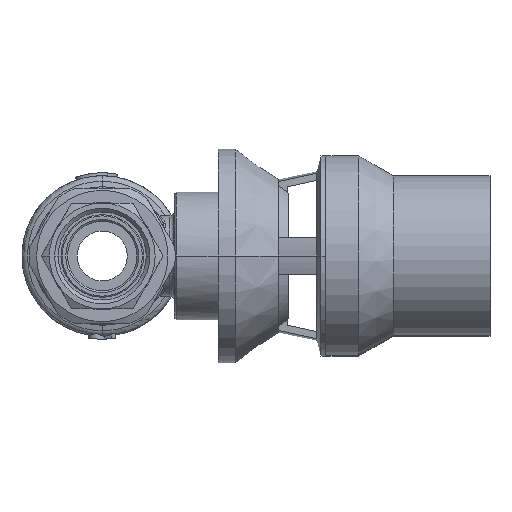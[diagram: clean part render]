
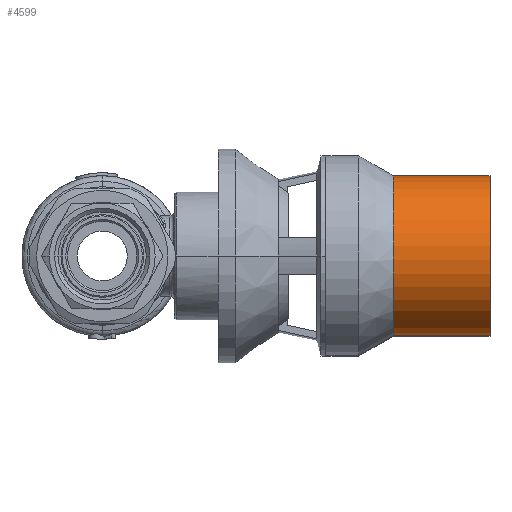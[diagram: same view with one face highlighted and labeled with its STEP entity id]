
A CAD part, left-side view. The second image highlights one B-rep face of the part: STEP entity #4599.
In plain terms, the highlighted cylindrical face has radius 22 mm (diameter 44 mm), a partial arc.
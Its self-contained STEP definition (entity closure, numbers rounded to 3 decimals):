
#660 = CARTESIAN_POINT ( 'NONE',  ( 0., 53.218, -22. ) ) ;
#955 = AXIS2_PLACEMENT_3D ( 'NONE', #18864, #7472, #20795 ) ;
#1222 = CIRCLE ( 'NONE', #955, 22. ) ;
#1336 = VECTOR ( 'NONE', #14076, 1000. ) ;
#4207 = ORIENTED_EDGE ( 'NONE', *, *, #4993, .T. ) ;
#4599 = ADVANCED_FACE ( 'NONE', ( #12392 ), #11803, .T. ) ;
#4993 = EDGE_CURVE ( 'NONE', #10726, #6888, #12669, .T. ) ;
#6425 = EDGE_CURVE ( 'NONE', #12792, #6888, #1222, .T. ) ;
#6888 = VERTEX_POINT ( 'NONE', #24426 ) ;
#7472 = DIRECTION ( 'NONE',  ( 0., 1., 0. ) ) ;
#7906 = CARTESIAN_POINT ( 'NONE',  ( 0., 26.474, -22. ) ) ;
#8065 = CARTESIAN_POINT ( 'NONE',  ( 0., 0., 0. ) ) ;
#8327 = CARTESIAN_POINT ( 'NONE',  ( 0., 0., -22. ) ) ;
#8694 = ORIENTED_EDGE ( 'NONE', *, *, #6425, .F. ) ;
#9949 = DIRECTION ( 'NONE',  ( 0., 0., 1. ) ) ;
#10726 = VERTEX_POINT ( 'NONE', #12369 ) ;
#11551 = LINE ( 'NONE', #660, #1336 ) ;
#11803 = CYLINDRICAL_SURFACE ( 'NONE', #17210, 22. ) ;
#12369 = CARTESIAN_POINT ( 'NONE',  ( 0., 0., 22. ) ) ;
#12392 = FACE_OUTER_BOUND ( 'NONE', #17198, .T. ) ;
#12669 = LINE ( 'NONE', #23609, #21060 ) ;
#12792 = VERTEX_POINT ( 'NONE', #7906 ) ;
#14076 = DIRECTION ( 'NONE',  ( 0., 1., 0. ) ) ;
#17198 = EDGE_LOOP ( 'NONE', ( #22124, #24797, #4207, #8694 ) ) ;
#17210 = AXIS2_PLACEMENT_3D ( 'NONE', #24464, #24745, #23223 ) ;
#17753 = AXIS2_PLACEMENT_3D ( 'NONE', #8065, #21390, #9949 ) ;
#18864 = CARTESIAN_POINT ( 'NONE',  ( 0., 26.474, 0. ) ) ;
#20795 = DIRECTION ( 'NONE',  ( 0., 0., 1. ) ) ;
#21060 = VECTOR ( 'NONE', #22909, 1000. ) ;
#21390 = DIRECTION ( 'NONE',  ( 0., 1., 0. ) ) ;
#21533 = CIRCLE ( 'NONE', #17753, 22. ) ;
#22077 = EDGE_CURVE ( 'NONE', #23022, #12792, #11551, .T. ) ;
#22124 = ORIENTED_EDGE ( 'NONE', *, *, #22077, .F. ) ;
#22909 = DIRECTION ( 'NONE',  ( 0., 1., 0. ) ) ;
#23022 = VERTEX_POINT ( 'NONE', #8327 ) ;
#23223 = DIRECTION ( 'NONE',  ( 0., 0., 1. ) ) ;
#23512 = EDGE_CURVE ( 'NONE', #23022, #10726, #21533, .T. ) ;
#23609 = CARTESIAN_POINT ( 'NONE',  ( 0., 53.218, 22. ) ) ;
#24426 = CARTESIAN_POINT ( 'NONE',  ( 0., 26.474, 22. ) ) ;
#24464 = CARTESIAN_POINT ( 'NONE',  ( 0., 53.218, 0. ) ) ;
#24745 = DIRECTION ( 'NONE',  ( 0., 1., 0. ) ) ;
#24797 = ORIENTED_EDGE ( 'NONE', *, *, #23512, .T. ) ;
